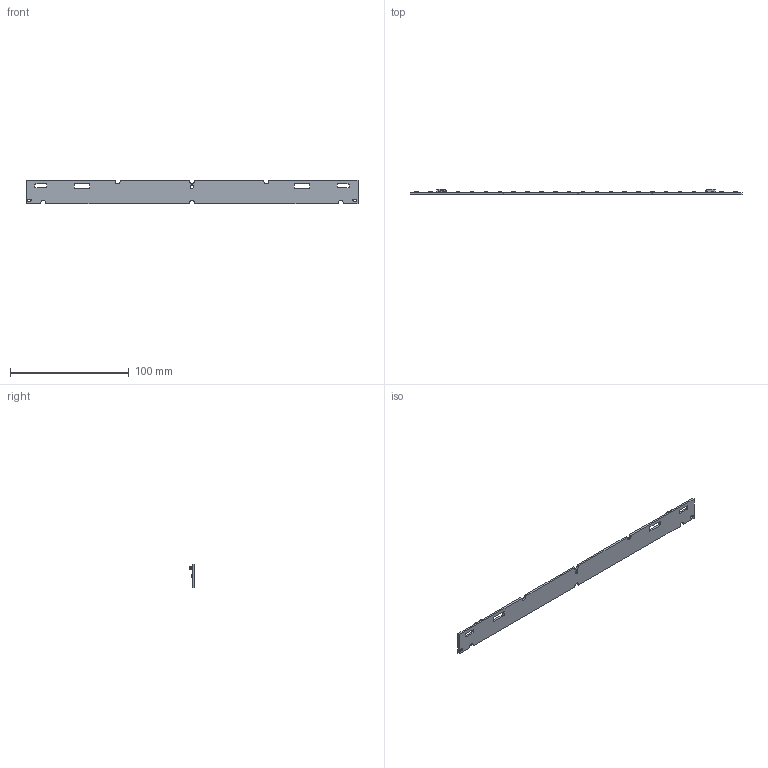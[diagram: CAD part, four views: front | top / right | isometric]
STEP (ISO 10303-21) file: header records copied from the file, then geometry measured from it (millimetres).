
FILE_DESCRIPTION((''),'2;1');
FILE_NAME('ASM_KONEKTORI_DIODE_LOGO_ASM','2020-10-15T10:14:20',('msavic'),(''),'CREO PARAMETRIC BY PTC INC, 2016510','CREO PARAMETRIC BY PTC INC, 2016510','');
FILE_SCHEMA(('AUTOMOTIVE_DESIGN { 1 0 10303 214 1 1 1 1 }'));
Products named in the file (12): BAZA-WU-M-658; PRT0001; VSO-LOGO-5MM_3; VSO-LOGO-5MM001_2_1; BUILT-IN_LED_MODULE-5MM004_2; BUILT-IN_LED_MODULE-5MM003_2; BUILT-IN_LED_MODULE-5MM002_2; BUILT-IN_LED_MODULE-5MM001_2; CE-ZEICHEN-6MM_2; CE-ZEICHEN-6MM001_2; 2065-101_998-403; ASM_KONEKTORI_DIODE_LOGO_ASM
Assembly tree (36 placements, depth 2):
  ASM_KONEKTORI_DIODE_LOGO_ASM
    BAZA-WU-M-658
    PRT0001  x24
    VSO-LOGO-5MM_3
    VSO-LOGO-5MM001_2_1
    BUILT-IN_LED_MODULE-5MM004_2
    BUILT-IN_LED_MODULE-5MM003_2
    BUILT-IN_LED_MODULE-5MM002_2
    BUILT-IN_LED_MODULE-5MM001_2  x2
    CE-ZEICHEN-6MM_2
    CE-ZEICHEN-6MM001_2
    2065-101_998-403  x2
Bounding box: 279 x 4.3 x 20 mm (x, y, z)
Volume: 8697 mm3; surface area: 12926.7 mm2
Topology: 36 solids, 36 shells, 6222 faces, 17625 edges, 11676 vertices
Faces by surface type: plane 4753, cylinder 1363, bspline 96, extrusion 10
Entity records: 122825 total; most frequent: CARTESIAN_POINT 18455, ORIENTED_EDGE 17534, DIRECTION 15378, EDGE_CURVE 8767, VECTOR 8336, LINE 8326, VERTEX_POINT 5845, AXIS2_PLACEMENT_3D 3503
